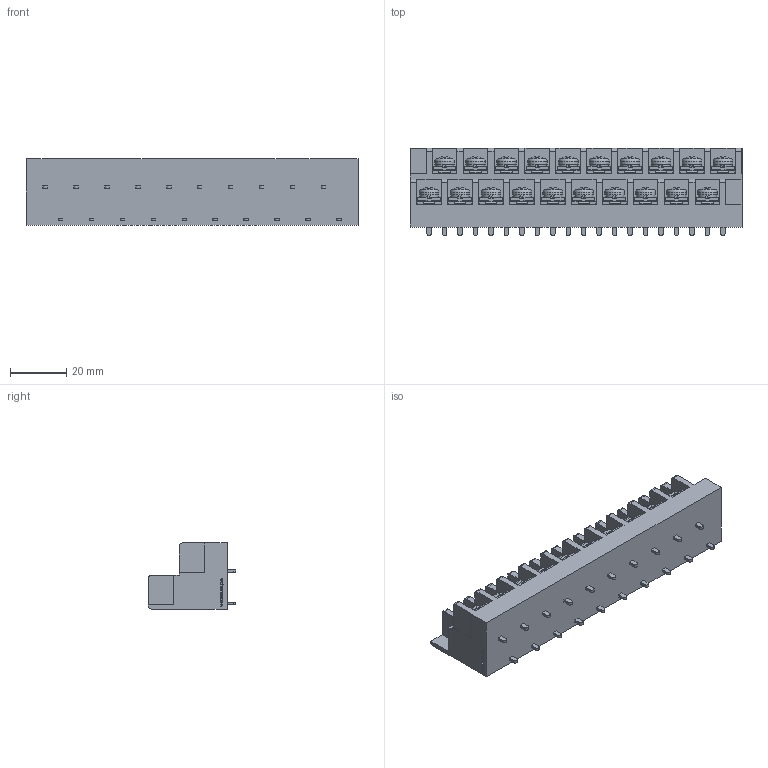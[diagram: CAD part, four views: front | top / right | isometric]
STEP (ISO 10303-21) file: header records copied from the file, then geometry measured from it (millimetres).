
FILE_DESCRIPTION(/* description */ ('Alibre Inc.'),/* implementation_level */ '2;1');
FILE_NAME(/* name */ 'export0',/* time_stamp */ '2016-08-05T12:12:34+09:00',/* author */ (''),/* organization */ (''),/* preprocessor_version */ 'ST-DEVELOPER v14',/* originating_system */ 'Alibre',/* authorisation */ '');
FILE_SCHEMA (('CONFIG_CONTROL_DESIGN'));
Length unit declared in the file: centimetre
Products named in the file (1): ID_1
Bounding box: 118.1 x 31 x 23.5 mm (x, y, z)
Volume: 49917.4 mm3; surface area: 23187.9 mm2
Topology: 1 solids, 177 shells, 4121 faces, 10771 edges, 7094 vertices
Faces by surface type: plane 3194, bspline 624, cylinder 163, cone 80, torus 40, sphere 20
Full cylindrical faces by diameter (mm): 4 x20, 7 x20
Entity records: 120098 total; most frequent: CARTESIAN_POINT 27563, ORIENTED_EDGE 21502, DIRECTION 13451, EDGE_CURVE 10671, VECTOR 8027, LINE 8027, VERTEX_POINT 7074, EDGE_LOOP 4459
